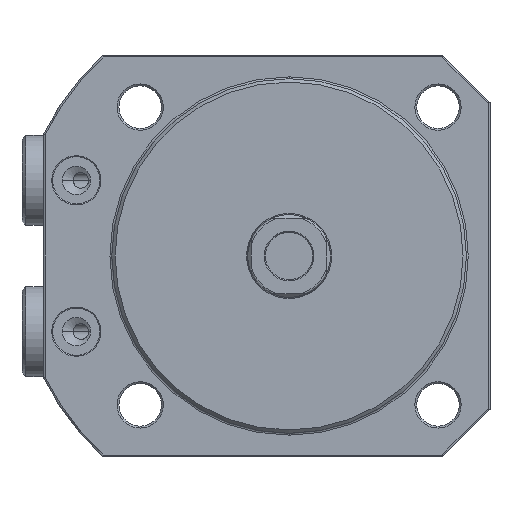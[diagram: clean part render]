
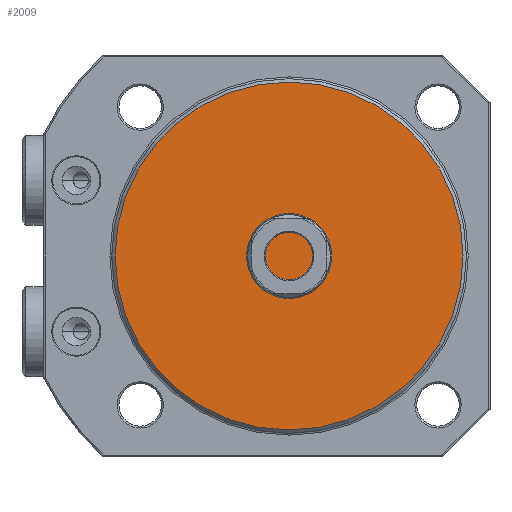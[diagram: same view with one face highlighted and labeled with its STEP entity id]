
A CAD part, front view. The second image highlights one B-rep face of the part: STEP entity #2009.
In plain terms, the highlighted planar face has unit normal (0, -1, 0) as drawn and (-1, 0, 0) by its records, which use the part's own axes.
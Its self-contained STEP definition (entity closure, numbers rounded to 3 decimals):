
#1600=PLANE('',#7682);
#2009=ADVANCED_FACE('',(#2438),#1600,.F.);
#2438=FACE_OUTER_BOUND('',#2803,.T.);
#2803=EDGE_LOOP('',(#4331));
#4331=ORIENTED_EDGE('',*,*,#6399,.T.);
#5742=VERTEX_POINT('',#10724);
#6399=EDGE_CURVE('',#5742,#5742,#7154,.T.);
#7154=CIRCLE('',#7681,36.8);
#7681=AXIS2_PLACEMENT_3D('',#10723,#8842,#8843);
#7682=AXIS2_PLACEMENT_3D('',#10725,#8844,#8845);
#8842=DIRECTION('',(-1.,0.,0.));
#8843=DIRECTION('',(0.,0.,-1.));
#8844=DIRECTION('',(1.,0.,0.));
#8845=DIRECTION('',(0.,0.,1.));
#10723=CARTESIAN_POINT('',(0.,0.,0.));
#10724=CARTESIAN_POINT('',(0.,0.,-36.8));
#10725=CARTESIAN_POINT('',(0.,0.,0.));
